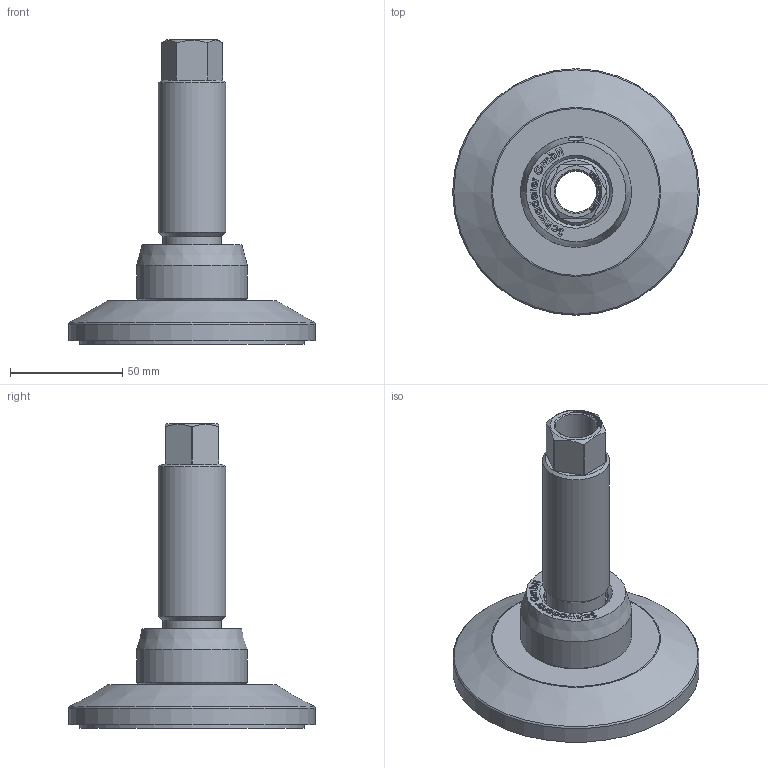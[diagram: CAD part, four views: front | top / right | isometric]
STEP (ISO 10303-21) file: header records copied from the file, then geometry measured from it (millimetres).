
FILE_DESCRIPTION(/* description */ ('JCM 100C - M30 - S6'),/* implementation_level */ '2;1');
FILE_NAME(/* name */ 'P:\CAD ab 2015\STP - Internetseite\JCMHD\JCMHD 100C - S - HSD120.stp',/* time_stamp */ '2017-01-24T09:40:02+01:00',/* author */ ('T. Rey'),/* organization */ ('Schwaderer GmbH Robert-Bosch-Straße 10 71563 Affalterbach'),/* preprocessor_version */ 'ST-DEVELOPER v16.1',/* originating_system */ 'Autodesk Inventor LT ',/* authorisation */ '');
FILE_SCHEMA (('CONFIG_CONTROL_DESIGN'));
Length unit declared in the file: millimetre
Products named in the file (1): JCMHD 100C - S6 - HSD120
Bounding box: 110 x 110 x 135.9 mm (x, y, z)
Volume: 219756 mm3; surface area: 67897.2 mm2
Topology: 4 solids, 4 shells, 479 faces, 1262 edges, 831 vertices
Faces by surface type: plane 243, bspline 192, cylinder 23, cone 17, torus 3, sphere 1
Full cylindrical faces by diameter (mm): 5 x1, 18.5 x2, 25 x1, 26 x1, 26.5 x1, 27.5 x1, 28.5 x2, 30 x2, 31 x1, 49.5 x1, 100 x2, 110 x1
Entity records: 16090 total; most frequent: CARTESIAN_POINT 5178, ORIENTED_EDGE 2440, DIRECTION 1468, EDGE_CURVE 1220, VERTEX_POINT 824, LINE 750, VECTOR 750, EDGE_LOOP 564
